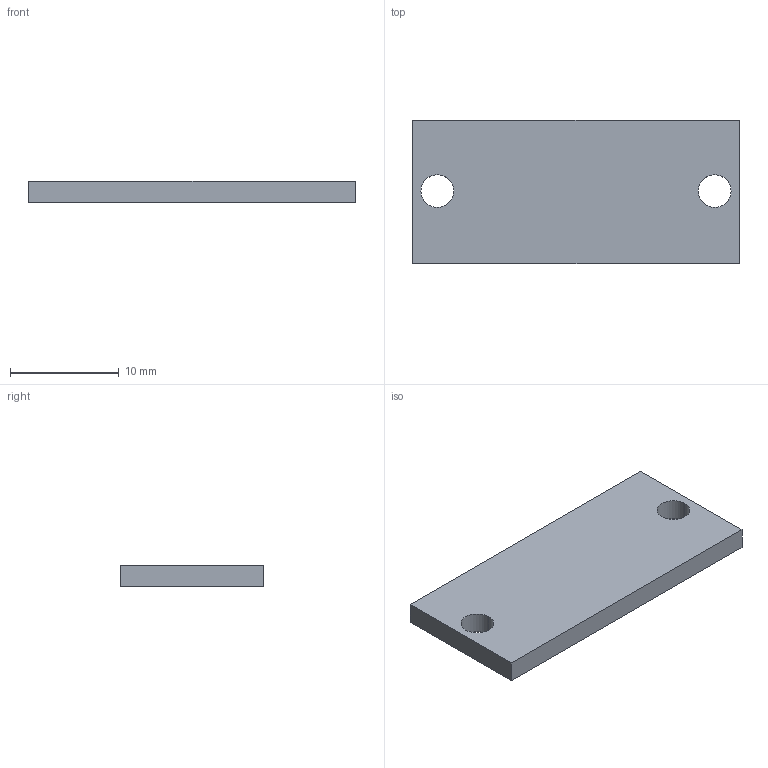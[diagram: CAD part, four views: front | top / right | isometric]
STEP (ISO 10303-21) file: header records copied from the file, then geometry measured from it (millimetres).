
FILE_DESCRIPTION (( 'STEP AP203' ), '1' );
FILE_NAME ('PUSHBUTTON_COVER.STEP', '2021-09-09T14:25:53', ( '' ), ( '' ), 'SwSTEP 2.0', 'SolidWorks 2020', '' );
FILE_SCHEMA (( 'CONFIG_CONTROL_DESIGN' ));
Length unit declared in the file: millimetre
Products named in the file (1): PUSHBUTTON_COVER
Bounding box: 30 x 13.16 x 2 mm (x, y, z)
Volume: 761.3 mm3; surface area: 971.7 mm2
Topology: 1 solids, 1 shells, 10 faces, 24 edges, 16 vertices
Faces by surface type: plane 6, cylinder 4
Entity records: 381 total; most frequent: DIRECTION 54, CARTESIAN_POINT 51, ORIENTED_EDGE 48, EDGE_CURVE 24, AXIS2_PLACEMENT_3D 19, VERTEX_POINT 16, LINE 16, VECTOR 16
